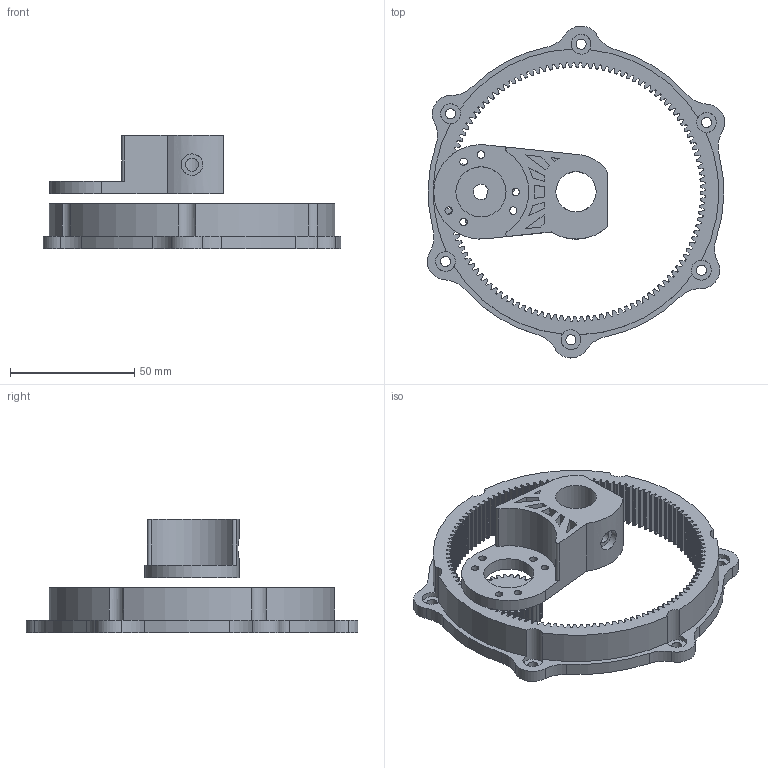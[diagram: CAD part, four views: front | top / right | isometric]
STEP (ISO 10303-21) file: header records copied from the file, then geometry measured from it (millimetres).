
FILE_DESCRIPTION(/* description */ (''),/* implementation_level */ '2;1');
FILE_NAME(/* name */ 'encoder mount with gears.step',/* time_stamp */ '2025-12-17T13:06:05+03:00',/* author */ (''),/* organization */ (''),/* preprocessor_version */ 'ST-DEVELOPER v20.1',/* originating_system */ 'Autodesk Translation Framework v14.17.0.0',/* authorisation */ '');
FILE_SCHEMA (('AUTOMOTIVE_DESIGN { 1 0 10303 214 3 1 1 }'));
Length unit declared in the file: millimetre
Products named in the file (7): Wheel ALL; Gear Wheel V2; Internal Gear (120 teeth); Gear Encoder V2; Spur Gear (30 teeth); Clamp Ecoder; Component2
Assembly tree (6 placements, depth 3):
  Wheel ALL
    Gear Wheel V2
      Internal Gear (120 teeth)
    Gear Encoder V2
      Spur Gear (30 teeth)
    Clamp Ecoder
      Component2
Bounding box: 119.73 x 133.62 x 45.5 mm (x, y, z)
Volume: 72889.5 mm3; surface area: 39671.1 mm2
Topology: 3 solids, 3 shells, 1340 faces, 3978 edges, 2652 vertices
Faces by surface type: cylinder 673, bspline 608, plane 59
Full cylindrical faces by diameter (mm): 3 x6, 3.2 x1, 4.067 x6, 4.9 x1, 5.2 x1, 8 x6, 8.7 x1, 16.2 x1, 20.2 x1
Entity records: 49480 total; most frequent: CARTESIAN_POINT 16207, ORIENTED_EDGE 7956, DIRECTION 5584, EDGE_CURVE 3978, VERTEX_POINT 2652, AXIS2_PLACEMENT_3D 2096, LINE 1392, VECTOR 1392
